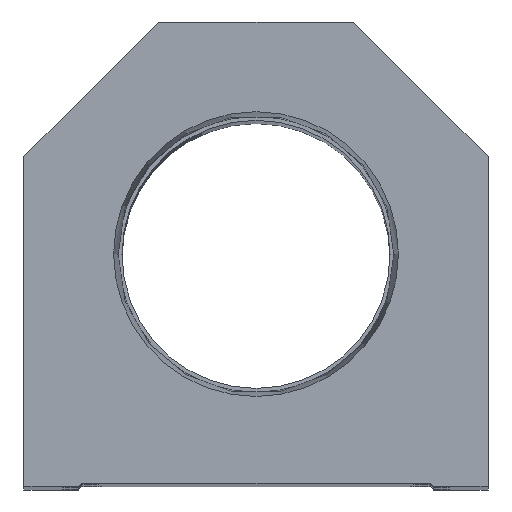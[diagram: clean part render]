
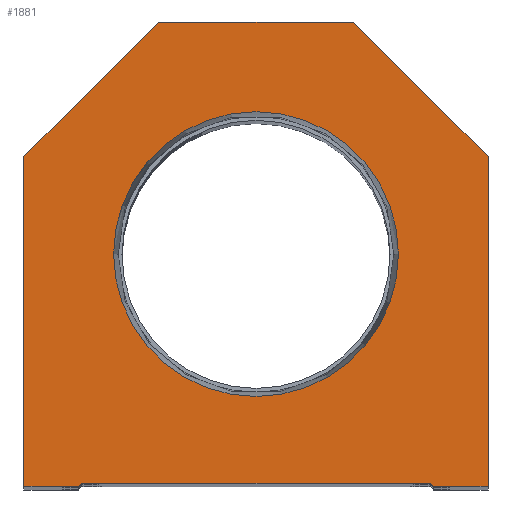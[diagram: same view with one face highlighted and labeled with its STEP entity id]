
A CAD part, top view. The second image highlights one B-rep face of the part: STEP entity #1881.
In plain terms, the highlighted planar face has unit normal (0, 0, 1).
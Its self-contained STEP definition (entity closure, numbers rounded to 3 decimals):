
#274 = DIRECTION ( 'NONE',  ( 1., 0., 0. ) ) ;
#422 = VECTOR ( 'NONE', #9540, 1000. ) ;
#852 = CARTESIAN_POINT ( 'NONE',  ( 23.374, 38.1, 0. ) ) ;
#955 = CARTESIAN_POINT ( 'NONE',  ( 16., 76.2, 0. ) ) ;
#1028 = DIRECTION ( 'NONE',  ( -0.707, 0.707, 0. ) ) ;
#1036 = VECTOR ( 'NONE', #6627, 1000. ) ;
#1670 = PLANE ( 'NONE',  #6872 ) ;
#1780 = CARTESIAN_POINT ( 'NONE',  ( 0., 0., 0. ) ) ;
#1881 = ADVANCED_FACE ( 'NONE', ( #14251, #15668 ), #1670, .T. ) ;
#1891 = EDGE_CURVE ( 'NONE', #15121, #2640, #3217, .T. ) ;
#1913 = CARTESIAN_POINT ( 'NONE',  ( -38.1, 0., 0. ) ) ;
#2410 = VERTEX_POINT ( 'NONE', #852 ) ;
#2640 = VERTEX_POINT ( 'NONE', #3961 ) ;
#2716 = ORIENTED_EDGE ( 'NONE', *, *, #17942, .T. ) ;
#2768 = VECTOR ( 'NONE', #1028, 1000. ) ;
#3061 = VECTOR ( 'NONE', #16311, 1000. ) ;
#3217 = LINE ( 'NONE', #6354, #18302 ) ;
#3295 = LINE ( 'NONE', #7582, #422 ) ;
#3410 = EDGE_LOOP ( 'NONE', ( #5142, #9329 ) ) ;
#3422 = CARTESIAN_POINT ( 'NONE',  ( 0., 38.1, 0. ) ) ;
#3646 = CARTESIAN_POINT ( 'NONE',  ( 28.6, 0., 0. ) ) ;
#3650 = LINE ( 'NONE', #3850, #3061 ) ;
#3850 = CARTESIAN_POINT ( 'NONE',  ( -14.55, 14.55, 0. ) ) ;
#3870 = CARTESIAN_POINT ( 'NONE',  ( -38.1, 54.1, 0. ) ) ;
#3917 = EDGE_CURVE ( 'NONE', #17642, #7877, #10568, .T. ) ;
#3943 = EDGE_CURVE ( 'NONE', #2410, #17268, #15153, .T. ) ;
#3961 = CARTESIAN_POINT ( 'NONE',  ( -16., 76.2, 0. ) ) ;
#4007 = VERTEX_POINT ( 'NONE', #8618 ) ;
#4010 = CARTESIAN_POINT ( 'NONE',  ( 38.1, 0., 0. ) ) ;
#4205 = VERTEX_POINT ( 'NONE', #18373 ) ;
#4213 = DIRECTION ( 'NONE',  ( 0., 0., 1. ) ) ;
#4222 = EDGE_CURVE ( 'NONE', #7877, #15121, #7545, .T. ) ;
#4279 = CARTESIAN_POINT ( 'NONE',  ( -28.6, 0., 0. ) ) ;
#4467 = ORIENTED_EDGE ( 'NONE', *, *, #4222, .T. ) ;
#4752 = ORIENTED_EDGE ( 'NONE', *, *, #3917, .T. ) ;
#5142 = ORIENTED_EDGE ( 'NONE', *, *, #3943, .F. ) ;
#5194 = VECTOR ( 'NONE', #9000, 1000. ) ;
#5539 = CIRCLE ( 'NONE', #7821, 23.374 ) ;
#5966 = ORIENTED_EDGE ( 'NONE', *, *, #6147, .T. ) ;
#6011 = CARTESIAN_POINT ( 'NONE',  ( 38.1, 54.1, 0. ) ) ;
#6093 = ORIENTED_EDGE ( 'NONE', *, *, #7612, .T. ) ;
#6147 = EDGE_CURVE ( 'NONE', #13780, #7138, #14519, .T. ) ;
#6354 = CARTESIAN_POINT ( 'NONE',  ( 16., 76.2, 0. ) ) ;
#6451 = DIRECTION ( 'NONE',  ( -1., 0., 0. ) ) ;
#6602 = LINE ( 'NONE', #3646, #15712 ) ;
#6627 = DIRECTION ( 'NONE',  ( 1., 0., 0. ) ) ;
#6639 = CARTESIAN_POINT ( 'NONE',  ( 38.1, 54.1, 0. ) ) ;
#6872 = AXIS2_PLACEMENT_3D ( 'NONE', #1780, #17199, #274 ) ;
#7065 = ORIENTED_EDGE ( 'NONE', *, *, #7078, .T. ) ;
#7078 = EDGE_CURVE ( 'NONE', #4205, #17642, #6602, .T. ) ;
#7138 = VERTEX_POINT ( 'NONE', #11325 ) ;
#7163 = LINE ( 'NONE', #4279, #5194 ) ;
#7187 = CARTESIAN_POINT ( 'NONE',  ( -29.1, 0., 0. ) ) ;
#7545 = LINE ( 'NONE', #6011, #2768 ) ;
#7582 = CARTESIAN_POINT ( 'NONE',  ( -38.1, 54.1, 0. ) ) ;
#7612 = EDGE_CURVE ( 'NONE', #2640, #15294, #3295, .T. ) ;
#7821 = AXIS2_PLACEMENT_3D ( 'NONE', #3422, #15779, #17207 ) ;
#7877 = VERTEX_POINT ( 'NONE', #6639 ) ;
#8492 = CARTESIAN_POINT ( 'NONE',  ( -28.6, 0.5, 0. ) ) ;
#8618 = CARTESIAN_POINT ( 'NONE',  ( -38.1, 0., 0. ) ) ;
#9000 = DIRECTION ( 'NONE',  ( 1., 0., 0. ) ) ;
#9329 = ORIENTED_EDGE ( 'NONE', *, *, #18463, .F. ) ;
#9540 = DIRECTION ( 'NONE',  ( -0.707, -0.707, 0. ) ) ;
#9878 = EDGE_LOOP ( 'NONE', ( #2716, #9904, #5966, #17946, #7065, #4752, #4467, #17590, #6093, #12466 ) ) ;
#9904 = ORIENTED_EDGE ( 'NONE', *, *, #11233, .T. ) ;
#10136 = EDGE_CURVE ( 'NONE', #15294, #4007, #19066, .T. ) ;
#10187 = DIRECTION ( 'NONE',  ( 1., 0., 0. ) ) ;
#10470 = DIRECTION ( 'NONE',  ( 1., 0., 0. ) ) ;
#10568 = LINE ( 'NONE', #18238, #13217 ) ;
#11233 = EDGE_CURVE ( 'NONE', #18633, #13780, #3650, .T. ) ;
#11325 = CARTESIAN_POINT ( 'NONE',  ( 28.6, 0.5, 0. ) ) ;
#11345 = CARTESIAN_POINT ( 'NONE',  ( -23.374, 38.1, 0. ) ) ;
#11704 = CARTESIAN_POINT ( 'NONE',  ( 0., 38.1, 0. ) ) ;
#11808 = EDGE_CURVE ( 'NONE', #7138, #4205, #13172, .T. ) ;
#12466 = ORIENTED_EDGE ( 'NONE', *, *, #10136, .T. ) ;
#12758 = DIRECTION ( 'NONE',  ( 0., -1., 0. ) ) ;
#13172 = LINE ( 'NONE', #17867, #18692 ) ;
#13217 = VECTOR ( 'NONE', #16793, 1000. ) ;
#13780 = VERTEX_POINT ( 'NONE', #8492 ) ;
#14251 = FACE_BOUND ( 'NONE', #3410, .T. ) ;
#14519 = LINE ( 'NONE', #19090, #1036 ) ;
#15121 = VERTEX_POINT ( 'NONE', #955 ) ;
#15153 = CIRCLE ( 'NONE', #17772, 23.374 ) ;
#15294 = VERTEX_POINT ( 'NONE', #3870 ) ;
#15668 = FACE_OUTER_BOUND ( 'NONE', #9878, .T. ) ;
#15712 = VECTOR ( 'NONE', #10187, 1000. ) ;
#15779 = DIRECTION ( 'NONE',  ( 0., 0., 1. ) ) ;
#16311 = DIRECTION ( 'NONE',  ( 0.707, 0.707, 0. ) ) ;
#16793 = DIRECTION ( 'NONE',  ( 0., 1., 0. ) ) ;
#17199 = DIRECTION ( 'NONE',  ( 0., 0., 1. ) ) ;
#17207 = DIRECTION ( 'NONE',  ( 1., 0., 0. ) ) ;
#17268 = VERTEX_POINT ( 'NONE', #11345 ) ;
#17590 = ORIENTED_EDGE ( 'NONE', *, *, #1891, .T. ) ;
#17642 = VERTEX_POINT ( 'NONE', #4010 ) ;
#17772 = AXIS2_PLACEMENT_3D ( 'NONE', #11704, #4213, #10470 ) ;
#17867 = CARTESIAN_POINT ( 'NONE',  ( 14.55, 14.55, 0. ) ) ;
#17942 = EDGE_CURVE ( 'NONE', #4007, #18633, #7163, .T. ) ;
#17946 = ORIENTED_EDGE ( 'NONE', *, *, #11808, .T. ) ;
#18238 = CARTESIAN_POINT ( 'NONE',  ( 38.1, 0., 0. ) ) ;
#18302 = VECTOR ( 'NONE', #6451, 1000. ) ;
#18373 = CARTESIAN_POINT ( 'NONE',  ( 29.1, 0., 0. ) ) ;
#18463 = EDGE_CURVE ( 'NONE', #17268, #2410, #5539, .T. ) ;
#18633 = VERTEX_POINT ( 'NONE', #7187 ) ;
#18692 = VECTOR ( 'NONE', #19382, 1000. ) ;
#18702 = VECTOR ( 'NONE', #12758, 1000. ) ;
#19066 = LINE ( 'NONE', #1913, #18702 ) ;
#19090 = CARTESIAN_POINT ( 'NONE',  ( -28.6, 0.5, 0. ) ) ;
#19382 = DIRECTION ( 'NONE',  ( 0.707, -0.707, 0. ) ) ;
